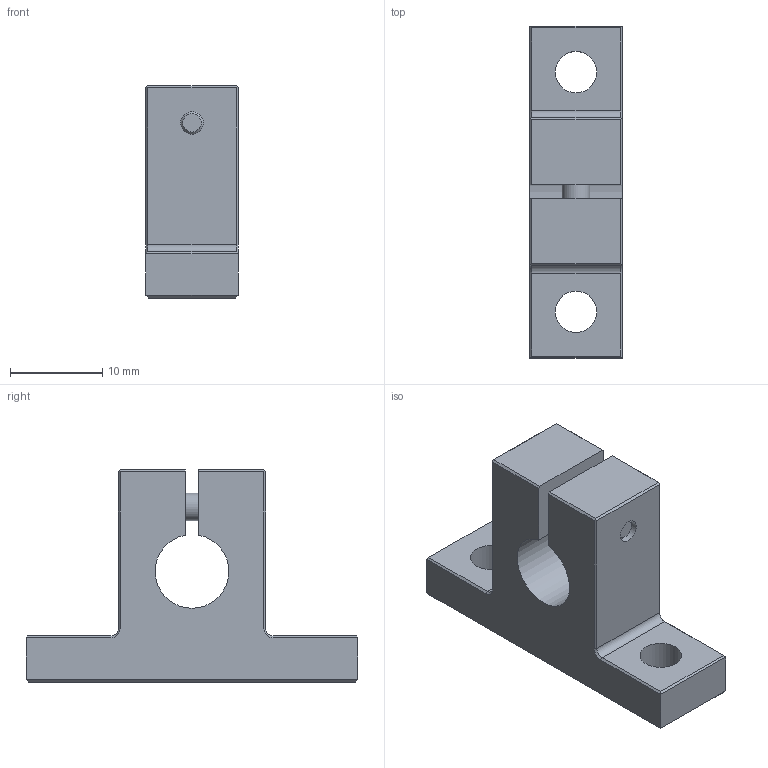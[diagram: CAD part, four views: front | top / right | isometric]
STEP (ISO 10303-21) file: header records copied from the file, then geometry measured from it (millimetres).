
FILE_DESCRIPTION((''),'2;1');
FILE_NAME('D:\製品 (図面)\カタログ用3D\シャフトブロック関連\STEP形式\SHA\SHA8.stp','2010-06-01T16:35:19',('Tsuchiya'),(''),'Autodesk Inventor 10','Autodesk Inventor 10','');
FILE_SCHEMA(('AUTOMOTIVE_DESIGN { 1 0 10303 214 1 1 1 1 }'));
Length unit declared in the file: millimetre
Products named in the file (1): SHA8
Bounding box: 10 x 36 x 23 mm (x, y, z)
Volume: 3877 mm3; surface area: 2608.1 mm2
Topology: 1 solids, 1 shells, 60 faces, 147 edges, 93 vertices
Faces by surface type: plane 42, cylinder 7, cone 6, bspline 4, torus 1
Full cylindrical faces by diameter (mm): 3 x1, 4.5 x2, 5.5 x1
Entity records: 1710 total; most frequent: CARTESIAN_POINT 347, DIRECTION 266, ORIENTED_EDGE 264, EDGE_CURVE 132, VECTOR 100, LINE 100, VERTEX_POINT 88, AXIS2_PLACEMENT_3D 83
